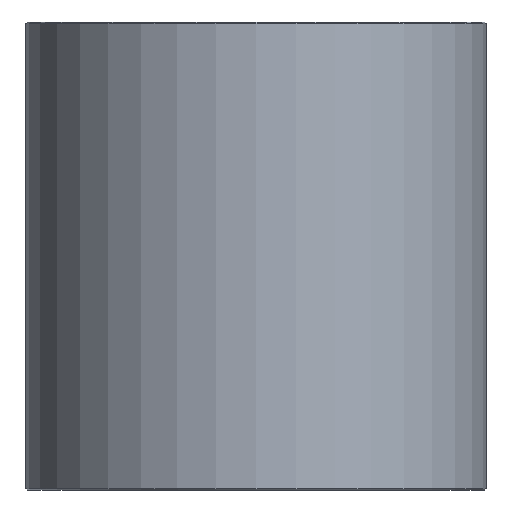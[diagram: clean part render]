
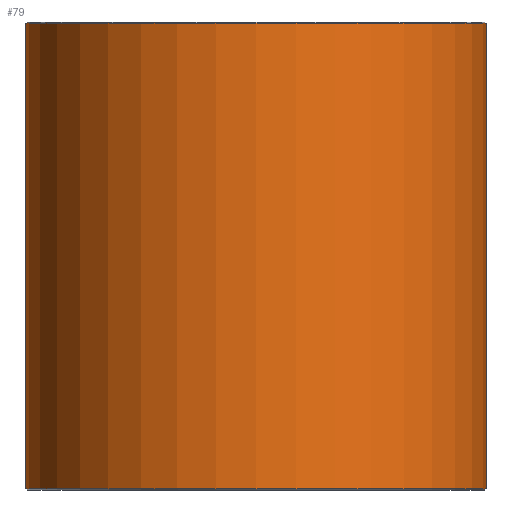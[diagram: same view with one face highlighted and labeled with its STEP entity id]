
A CAD part, front view. The second image highlights one B-rep face of the part: STEP entity #79.
In plain terms, the highlighted cylindrical face has radius 31 mm (diameter 62 mm), a full revolution.
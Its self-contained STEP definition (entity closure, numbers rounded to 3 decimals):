
#79=ADVANCED_FACE('',(#96,#97),#98,.T.);
#96=FACE_OUTER_BOUND('',#120,.T.);
#97=FACE_OUTER_BOUND('',#121,.T.);
#98=CYLINDRICAL_SURFACE('',#122,31.0);
#120=EDGE_LOOP('',(#152));
#121=EDGE_LOOP('',(#153));
#122=AXIS2_PLACEMENT_3D('',#154,#155,#156);
#152=ORIENTED_EDGE('',*,*,#178,.T.);
#153=ORIENTED_EDGE('',*,*,#177,.T.);
#154=CARTESIAN_POINT('',(0.0,0.0,63.0));
#155=DIRECTION('',(0.0,0.0,-1.0));
#156=DIRECTION('',(-1.0,0.0,0.0));
#177=EDGE_CURVE('',#190,#190,#191,.T.);
#178=EDGE_CURVE('',#192,#192,#193,.F.);
#190=VERTEX_POINT('',#206);
#191=CIRCLE('',#207,31.0);
#192=VERTEX_POINT('',#208);
#193=CIRCLE('',#209,31.0);
#206=CARTESIAN_POINT('',(31.0,0.0,0.2));
#207=AXIS2_PLACEMENT_3D('',#227,#228,#229);
#208=CARTESIAN_POINT('',(31.0,0.,62.8));
#209=AXIS2_PLACEMENT_3D('',#230,#231,#232);
#227=CARTESIAN_POINT('',(0.0,0.0,0.2));
#228=DIRECTION('',(0.0,0.0,1.0));
#229=DIRECTION('',(1.0,0.0,0.0));
#230=CARTESIAN_POINT('',(0.0,0.0,62.8));
#231=DIRECTION('',(0.0,0.0,1.0));
#232=DIRECTION('',(1.0,0.0,0.0));
